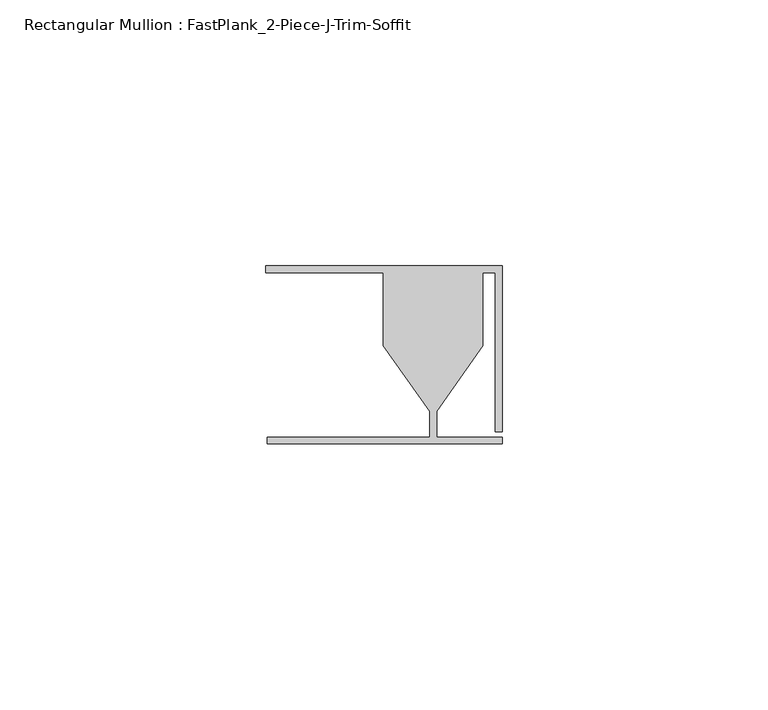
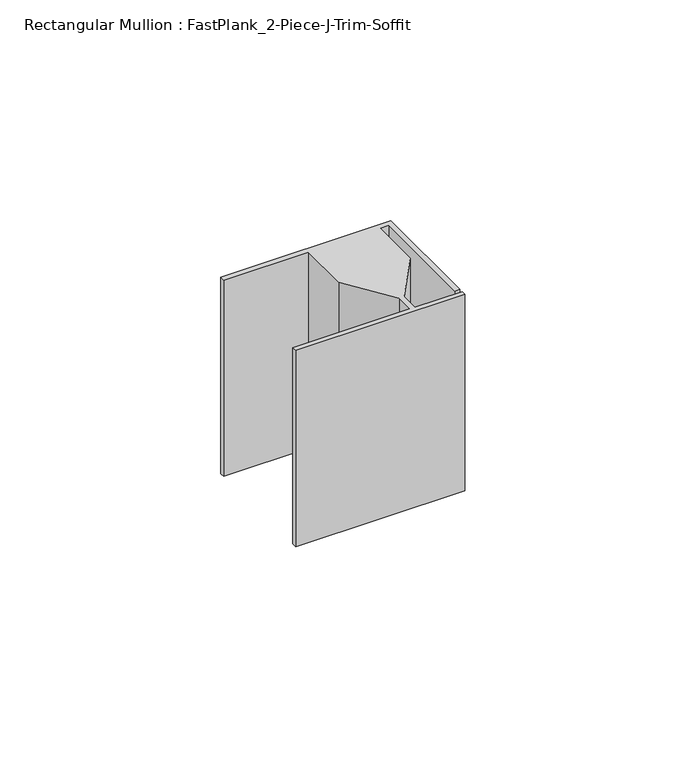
"""IFC4 building model written with IfcOpenShell, lengths in millimetres: member geometry, Rectangular Mullion : FastPlank_2-Piece-J-Trim-Soffit."""

from ifc_helpers import new_model, si_unit, frame, origin, place, context, project, spatial, polyline, outline, extrude, source, transform, mapped, element, save


def rectangular_mullion_fastplank_2_piece_j_trim_soffit_1b3d705d(model_context):
    return source(origin(), model_context, "Body", "SweptSolid", [
        extrude(outline(polyline([(0.0, -24.0545052), (-44.2023711, -24.0545052), (-44.2023711, -22.7538154), (-13.6176438, -22.7538154), (-13.6176438, -17.8958113), (-22.3299553, -5.5376243), (-22.3299553, 8.1461228), (-44.4475015, 8.1461228), (-44.4475015, 9.4461202), (0.0, 9.4461202), (0.0, -21.7539969), (-1.2999974, -21.7539969), (-1.2999974, 8.1461228), (-3.6053348, 8.1461228), (-3.6053348, -5.5376243), (-12.3176464, -17.8958113), (-12.3176464, -22.7538154), (0.0, -22.7538154), (0.0, -24.0545052)])), frame((0.0, 0.0, -54.2636897), z_axis=(0.0, 0.0, 1.0), x_axis=(1.0, 0.0, 0.0)), (0.0, 0.0, 1.0), 54.2636897),
    ])


if __name__ == "__main__":
    model = new_model("IFC4")
    model_context = context("Model", 3, world=origin())
    ifc_project = project(units=[si_unit("LENGTHUNIT", "METRE", prefix="MILLI")], contexts=[model_context])
    site = spatial("IfcSite", under=ifc_project)
    building = spatial("IfcBuilding", under=site)
    placement = place(None, origin())
    rectangular_mullion_fastplank_2_piece_j_trim_soffit_shape = rectangular_mullion_fastplank_2_piece_j_trim_soffit_1b3d705d(model_context)
    element("IfcMember", 1, ObjectType="Rectangular Mullion : FastPlank_2-Piece-J-Trim-Soffit", at=placement, inside=building, context=model_context, shape_type="MappedRepresentation", body=[
        mapped(rectangular_mullion_fastplank_2_piece_j_trim_soffit_shape, transform((0.0, 0.0, 0.0), x_axis=(1.0, 0.0, 0.0), y_axis=(0.0, 1.0, 0.0), z_axis=(0.0, 0.0, 1.0))),
    ])
    save(model, "model.ifc")
